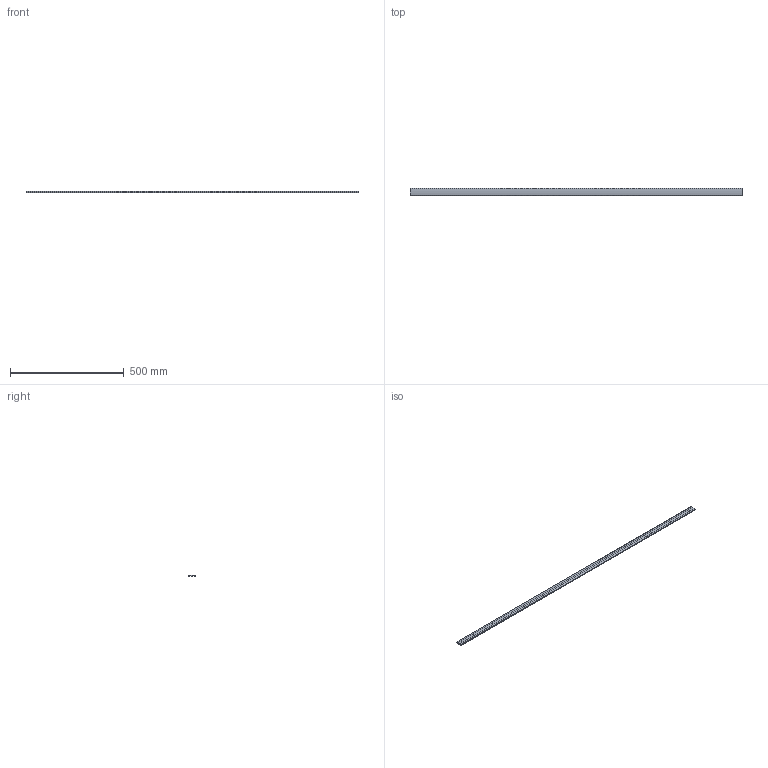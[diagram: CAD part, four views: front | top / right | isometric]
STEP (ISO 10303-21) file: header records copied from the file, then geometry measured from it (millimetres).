
FILE_DESCRIPTION( ( 'Unknown' ), '1' );
FILE_NAME( 'Z:/Datenaustausch/a/01VYQ3PY02.stp', 'Unknown', ( 'Unknown' ), ( 'BJB GmbH & Co. KG' ), 'PSStep 14.0', 'Unknown', ' ' );
FILE_SCHEMA( ( 'AUTOMOTIVE_DESIGN { 1 0 10303 214 1 1 1 1 }' ) );
Length unit declared in the file: millimetre
Products named in the file (1): 1
Bounding box: 1457.6 x 30.9 x 5.84 mm (x, y, z)
Volume: 107689 mm3; surface area: 114654.1 mm2
Topology: 1 solids, 1 shells, 28 faces, 78 edges, 52 vertices
Faces by surface type: plane 19, cylinder 9
Entity records: 915 total; most frequent: CARTESIAN_POINT 159, ORIENTED_EDGE 156, DIRECTION 154, EDGE_CURVE 78, LINE 60, VECTOR 60, VERTEX_POINT 52, AXIS2_PLACEMENT_3D 47
